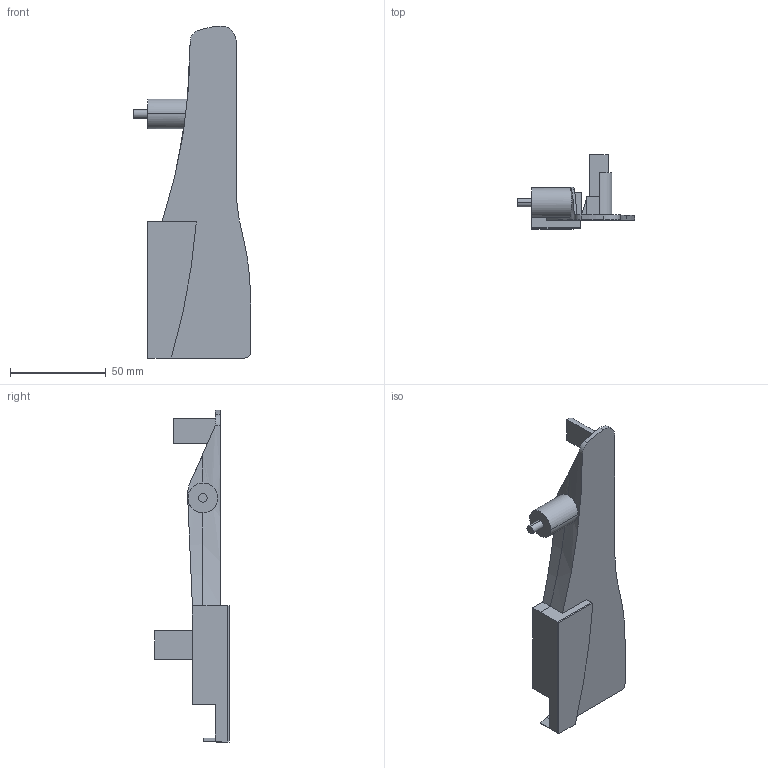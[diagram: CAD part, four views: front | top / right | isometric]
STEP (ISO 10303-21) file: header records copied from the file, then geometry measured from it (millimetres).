
FILE_DESCRIPTION (( 'STEP AP214' ), '1' );
FILE_NAME ('Blendenhalter XP H182 rechts_KK066150002.step', '2012-03-01T06:50:44', ( 'Grass' ), ( '' ), 'SwSTEP 2.0', 'SolidWorks 2011', '' );
FILE_SCHEMA (( 'AUTOMOTIVE_DESIGN' ));
Length unit declared in the file: millimetre
Products named in the file (1): Blendenhalter XP H182 rechts_KK066150002
Bounding box: 61 x 38.6 x 172.98 mm (x, y, z)
Volume: 50718.2 mm3; surface area: 22922.6 mm2
Topology: 1 solids, 1 shells, 83 faces, 220 edges, 144 vertices
Faces by surface type: plane 59, cylinder 19, bspline 5
Entity records: 2967 total; most frequent: CARTESIAN_POINT 899, ORIENTED_EDGE 440, DIRECTION 391, EDGE_CURVE 220, VECTOR 165, LINE 165, VERTEX_POINT 144, AXIS2_PLACEMENT_3D 113
